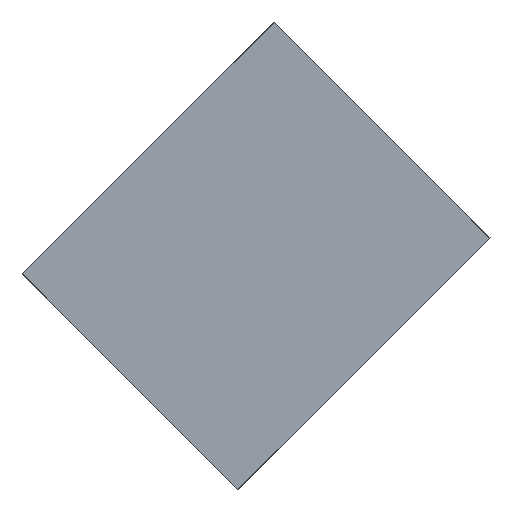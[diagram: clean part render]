
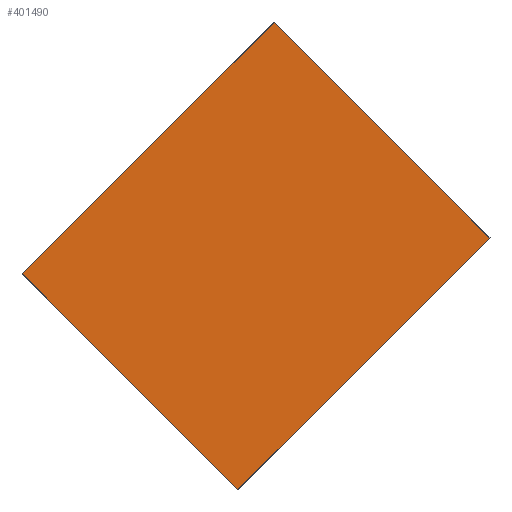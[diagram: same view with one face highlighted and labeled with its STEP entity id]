
A CAD part, top view. The second image highlights one B-rep face of the part: STEP entity #401490.
In plain terms, the highlighted free-form (B-spline) face has degree [1, 1] with [2, 2] control points.
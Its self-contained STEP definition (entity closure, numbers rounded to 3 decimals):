
#401140 = CARTESIAN_POINT ('', (-35.621, -450.19, 515.5));
#401150 = VERTEX_POINT ('', #401140);
#401160 = CARTESIAN_POINT ('', (458.145, 43.164, 515.5));
#401170 = VERTEX_POINT ('', #401160);
#401180 = CARTESIAN_POINT ('', (-35.621, -450.19, 515.5));
#401190 = CARTESIAN_POINT ('', (458.145, 43.164, 515.5));
#401200 = B_SPLINE_CURVE_WITH_KNOTS ('', 1, (#401180, #401190), .UNSPECIFIED., .F., .U., (2, 2), (0., 1.), .UNSPECIFIED.);
#401210 = EDGE_CURVE ('', #401150, #401170, #401200, .T.);
#401220 = ORIENTED_EDGE ('', *, *, #401210, .T.);
#401230 = CARTESIAN_POINT ('', (35.471, 466.19, 515.5));
#401240 = VERTEX_POINT ('', #401230);
#401250 = CARTESIAN_POINT ('', (458.145, 43.164, 515.5));
#401260 = CARTESIAN_POINT ('', (35.471, 466.19, 515.5));
#401270 = B_SPLINE_CURVE_WITH_KNOTS ('', 1, (#401250, #401260), .UNSPECIFIED., .F., .U., (2, 2), (0., 1.), .UNSPECIFIED.);
#401280 = EDGE_CURVE ('', #401170, #401240, #401270, .T.);
#401290 = ORIENTED_EDGE ('', *, *, #401280, .T.);
#401300 = CARTESIAN_POINT ('', (-458.295, -27.164, 515.5));
#401310 = VERTEX_POINT ('', #401300);
#401320 = CARTESIAN_POINT ('', (35.471, 466.19, 515.5));
#401330 = CARTESIAN_POINT ('', (-458.295, -27.164, 515.5));
#401340 = B_SPLINE_CURVE_WITH_KNOTS ('', 1, (#401320, #401330), .UNSPECIFIED., .F., .U., (2, 2), (0., 1.), .UNSPECIFIED.);
#401350 = EDGE_CURVE ('', #401240, #401310, #401340, .T.);
#401360 = ORIENTED_EDGE ('', *, *, #401350, .T.);
#401370 = CARTESIAN_POINT ('', (-458.295, -27.164, 515.5));
#401380 = CARTESIAN_POINT ('', (-35.621, -450.19, 515.5));
#401390 = B_SPLINE_CURVE_WITH_KNOTS ('', 1, (#401370, #401380), .UNSPECIFIED., .F., .U., (2, 2), (0., 1.), .UNSPECIFIED.);
#401400 = EDGE_CURVE ('', #401310, #401150, #401390, .T.);
#401410 = ORIENTED_EDGE ('', *, *, #401400, .T.);
#401420 = EDGE_LOOP ('', (#401220, #401290, #401360, #401410));
#401430 = FACE_OUTER_BOUND ('', #401420, .T.);
#401440 = CARTESIAN_POINT ('', (35.471, 466.192, 515.5));
#401450 = CARTESIAN_POINT ('', (458.146, 43.164, 515.5));
#401460 = CARTESIAN_POINT ('', (-458.296, -27.164, 515.5));
#401470 = CARTESIAN_POINT ('', (-35.621, -450.192, 515.5));
#401480 = B_SPLINE_SURFACE_WITH_KNOTS ('', 1, 1, ((#401440, #401450), (#401460, #401470)), .UNSPECIFIED., .F., .F., .U., (2, 2), (2, 2), (-349.001, 349.001), (-299.001, 299.001), .UNSPECIFIED.);
#401490 = ADVANCED_FACE ('', (#401430), #401480, .T.);
